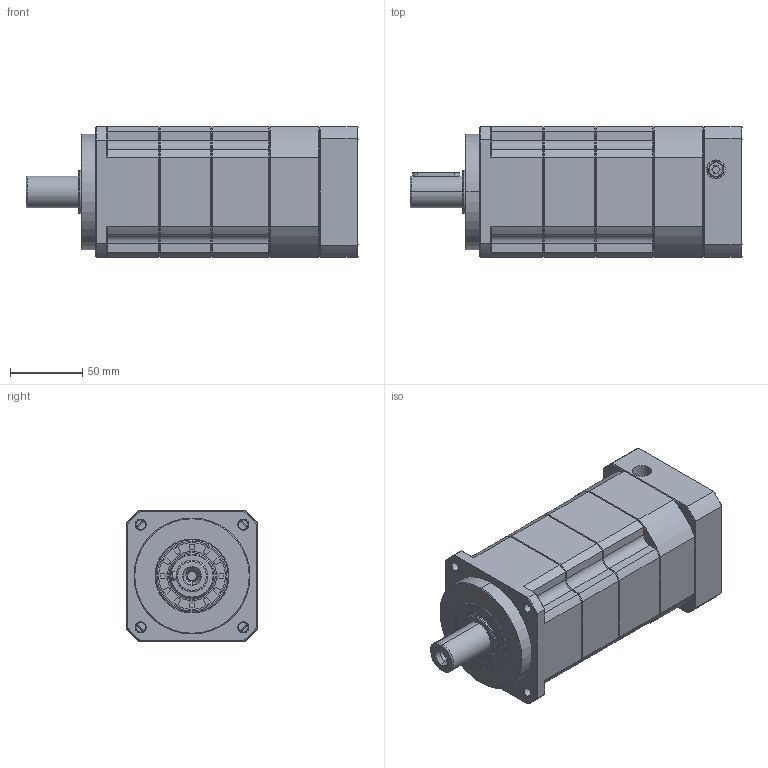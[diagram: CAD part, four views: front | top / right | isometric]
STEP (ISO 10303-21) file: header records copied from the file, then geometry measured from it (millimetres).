
FILE_DESCRIPTION (( 'STEP AP214' ), '1' );
FILE_NAME ('ZPB090-D22-L3-P1-12.7-73-69.6X69.6-M6.step', '2024-06-07T18:22:25', ( 'Windows 蚚誧' ), ( 'Organization' ), 'SwSTEP 2.0', 'SolidWorks 2016', '' );
FILE_SCHEMA (( 'AUTOMOTIVE_DESIGN' ));
Length unit declared in the file: millimetre
Products named in the file (1): ZPB090-D22-L3-P1-12.7-73-69.6X69.6-M6
Bounding box: 229 x 90 x 90 mm (x, y, z)
Surface area: 102410 mm2 (no closed solid volume)
Topology: 0 solids, 35 shells, 1960 faces, 5134 edges, 3237 vertices
Faces by surface type: plane 1008, bspline 389, cone 315, cylinder 246, torus 2
Full cylindrical faces by diameter (mm): 6.72 x1
Entity records: 98234 total; most frequent: CARTESIAN_POINT 48412, ORIENTED_EDGE 10219, DIRECTION 8003, EDGE_CURVE 5129, VECTOR 3349, LINE 3349, VERTEX_POINT 3235, AXIS2_PLACEMENT_3D 2327
